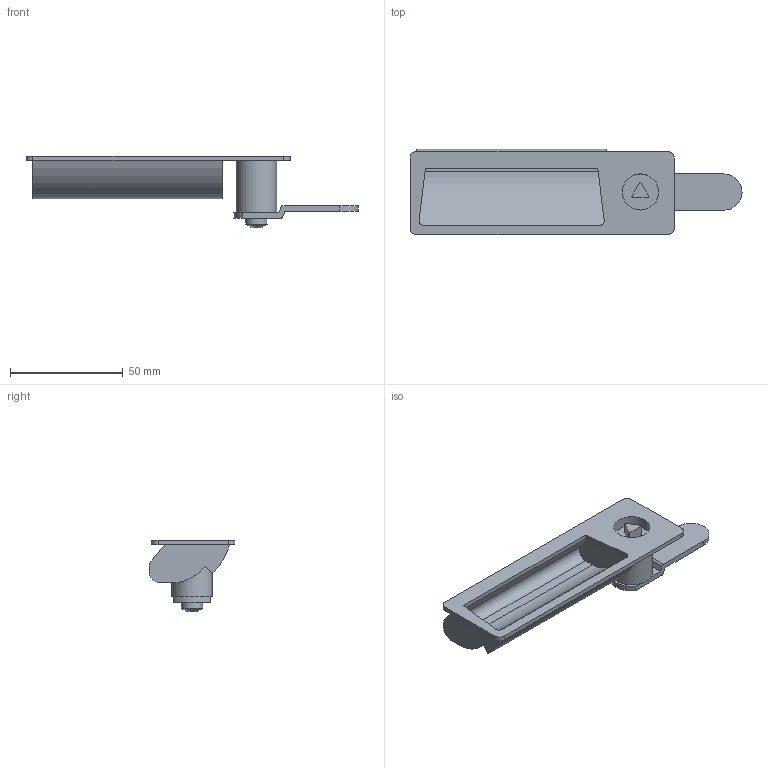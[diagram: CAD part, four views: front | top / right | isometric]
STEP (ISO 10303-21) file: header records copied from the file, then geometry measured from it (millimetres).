
FILE_DESCRIPTION( ( 'STEP AP203' ), '1' );
FILE_NAME( 'C:/Temp/Ganter_Step_05_03_2020/data/3_3/gn731_5/gn731_5_2/Latche with gripping tray GN 731.5-DK-3-45-2-SG (0-20).stp', '2020-03-12T11:49:30', ( 'License CC BY-ND 4.0' ), ( 'CADENAS' ), ' ', 'PARTsolutions', ' ' );
FILE_SCHEMA( ( 'CONFIG_CONTROL_DESIGN' ) );
Length unit declared in the file: millimetre
Products named in the file (3): Latche with gripping tray GN 731.5-DK-3-45-2-SG (0-20); _Latche with gripping tray GN 731.5-DK-3-45-2-SG (0)_1; _Latche with gripping tray GN 731.5-DK-3-45-2-SG (0-20)_2
Assembly tree (2 placements, depth 2):
  Latche with gripping tray GN 731.5-DK-3-45-2-SG (0-20)
    _Latche with gripping tray GN 731.5-DK-3-45-2-SG (0)_1
    _Latche with gripping tray GN 731.5-DK-3-45-2-SG (0-20)_2
Bounding box: 147 x 38 x 31.88 mm (x, y, z)
Volume: 24304.3 mm3; surface area: 20494.7 mm2
Topology: 2 solids, 2 shells, 93 faces, 239 edges, 156 vertices
Faces by surface type: plane 67, cylinder 25, sphere 1
Full cylindrical faces by diameter (mm): 9.5 x1, 16 x1, 18 x1
Entity records: 2889 total; most frequent: DIRECTION 495, CARTESIAN_POINT 481, ORIENTED_EDGE 464, EDGE_CURVE 232, AXIS2_PLACEMENT_3D 167, LINE 161, VECTOR 161, VERTEX_POINT 153
